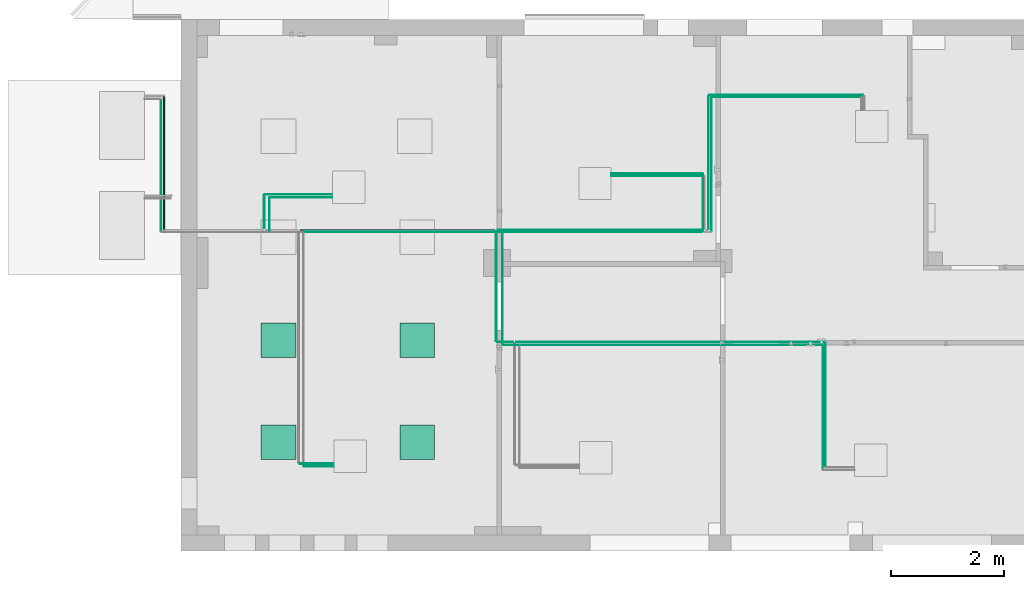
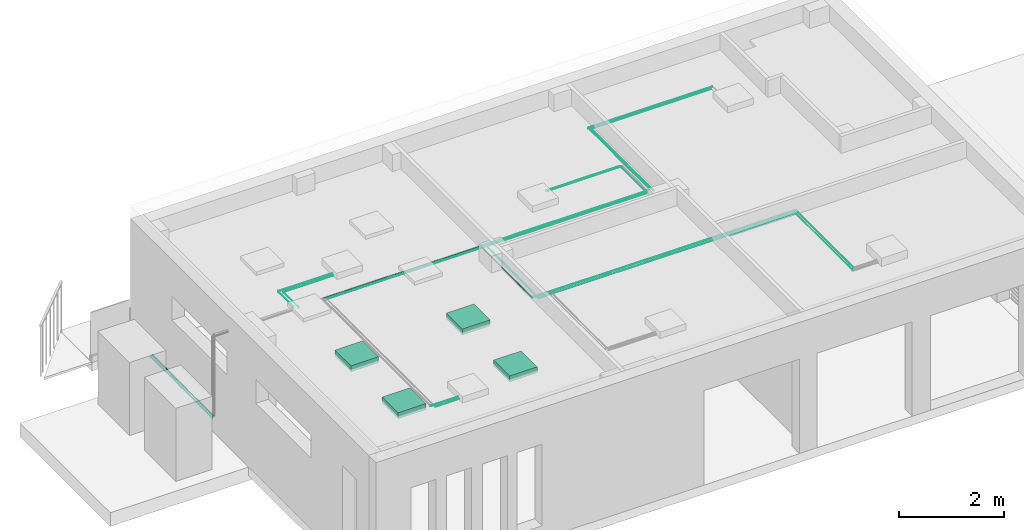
# One storey, part 8 of 22: 27 flow segments, 4 flow terminals.
"""IFC2X3 building model written with IfcOpenShell, lengths in millimetres."""

from ifc_helpers import new_model, entity, si_unit, converted_unit, derived_unit, direction, frame, frame_2d, origin, origin_2d_with_axis, place, context, subcontext, project, spatial, polyline, rectangle, circle, outline, extrude, source, transform, mapped, material, material_list, type_object, type_shapes, element, save


model = new_model("IFC2X3")

# Units and contexts
model_context = context("Model", 3, precision=0.01, world=origin(), true_north=direction((6.123031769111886e-17, 1.0)))
body_context = subcontext(model_context, "Body", "Model", "MODEL_VIEW")
ifc_project = project(units=[si_unit("LENGTHUNIT", "METRE", prefix="MILLI"), si_unit("AREAUNIT", "SQUARE_METRE"), si_unit("VOLUMEUNIT", "CUBIC_METRE"), converted_unit("PLANEANGLEUNIT", "DEGREE", entity("IfcRatioMeasure", 0.017453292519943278), si_unit("PLANEANGLEUNIT", "RADIAN"), dimensions=[0, 0, 0, 0, 0, 0, 0]), si_unit("MASSUNIT", "GRAM", prefix="KILO"), derived_unit("MASSDENSITYUNIT", [(si_unit("MASSUNIT", "GRAM", prefix="KILO"), 1), (si_unit("LENGTHUNIT", "METRE"), -3)]), derived_unit("MOMENTOFINERTIAUNIT", [(si_unit("LENGTHUNIT", "METRE"), 4)]), si_unit("TIMEUNIT", "SECOND"), si_unit("FREQUENCYUNIT", "HERTZ"), si_unit("THERMODYNAMICTEMPERATUREUNIT", "DEGREE_CELSIUS"), derived_unit("THERMALTRANSMITTANCEUNIT", [(si_unit("MASSUNIT", "GRAM", prefix="KILO"), 1), (si_unit("THERMODYNAMICTEMPERATUREUNIT", "KELVIN"), -1), (si_unit("TIMEUNIT", "SECOND"), -3)]), derived_unit("VOLUMETRICFLOWRATEUNIT", [(si_unit("LENGTHUNIT", "METRE"), 3), (si_unit("TIMEUNIT", "SECOND"), -1)]), derived_unit("MASSFLOWRATEUNIT", [(si_unit("MASSUNIT", "GRAM", prefix="KILO"), 1), (si_unit("TIMEUNIT", "SECOND"), -1)]), derived_unit("ROTATIONALFREQUENCYUNIT", [(si_unit("TIMEUNIT", "SECOND"), -1)]), si_unit("ELECTRICCURRENTUNIT", "AMPERE"), si_unit("ELECTRICVOLTAGEUNIT", "VOLT"), si_unit("POWERUNIT", "WATT"), si_unit("FORCEUNIT", "NEWTON", prefix="KILO"), si_unit("ILLUMINANCEUNIT", "LUX"), si_unit("LUMINOUSFLUXUNIT", "LUMEN"), si_unit("LUMINOUSINTENSITYUNIT", "CANDELA"), derived_unit("USERDEFINED", [(si_unit("MASSUNIT", "GRAM", prefix="KILO"), -1), (si_unit("LENGTHUNIT", "METRE"), -2), (si_unit("TIMEUNIT", "SECOND"), 3), (si_unit("LUMINOUSFLUXUNIT", "LUMEN"), 1)]), derived_unit("SOUNDPOWERUNIT", [(si_unit("MASSUNIT", "GRAM", prefix="KILO"), 1), (si_unit("LENGTHUNIT", "METRE"), 2), (si_unit("TIMEUNIT", "SECOND"), -3)]), derived_unit("SOUNDPRESSUREUNIT", [(si_unit("MASSUNIT", "GRAM", prefix="KILO"), 1), (si_unit("LENGTHUNIT", "METRE"), -1), (si_unit("TIMEUNIT", "SECOND"), -2)]), derived_unit("LINEARVELOCITYUNIT", [(si_unit("LENGTHUNIT", "METRE"), 1), (si_unit("TIMEUNIT", "SECOND"), -1)]), si_unit("PRESSUREUNIT", "PASCAL"), derived_unit("USERDEFINED", [(si_unit("LENGTHUNIT", "METRE"), -2), (si_unit("MASSUNIT", "GRAM", prefix="KILO"), 1), (si_unit("TIMEUNIT", "SECOND"), -2)]), derived_unit("LINEARFORCEUNIT", [(si_unit("MASSUNIT", "GRAM", prefix="KILO"), 1), (si_unit("LENGTHUNIT", "METRE"), 1), (si_unit("TIMEUNIT", "SECOND"), -2), (si_unit("LENGTHUNIT", "METRE"), -1)]), derived_unit("PLANARFORCEUNIT", [(si_unit("MASSUNIT", "GRAM", prefix="KILO"), 1), (si_unit("LENGTHUNIT", "METRE"), 1), (si_unit("TIMEUNIT", "SECOND"), -2), (si_unit("LENGTHUNIT", "METRE"), -2)])], contexts=[model_context])

# Site, building, storey
site_placement = place(None, origin())
site = spatial("IfcSite", under=ifc_project, at=site_placement, Name="Default", CompositionType="ELEMENT")
building_placement = place(site_placement, origin())
building = spatial("IfcBuilding", under=site, at=building_placement, CompositionType="ELEMENT")
storey_placement = place(building_placement, frame((0.0, 0.0, 3300.0)))
storey = spatial("IfcBuildingStorey", under=building, at=storey_placement, Name="Level 2", CompositionType="ELEMENT", Elevation=3299.99999999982)

# Flow segments
ifc_material_1 = material(Name="<Unnamed>")
pipe_segment_type_1 = type_object("IfcPipeSegmentType", Name="Pipe Types:Standard:Standard : Pipe Types:Standard", PredefinedType="NOTDEFINED", material=ifc_material_1)
shared_shape_1 = source(origin(), body_context, "Body", "SweptSolid", [
    extrude(circle(Radius=6.35, at=origin_2d_with_axis()), frame((1931.387580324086, -2592.85361987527, 6010.0), z_axis=(0.0, 1.0, 0.0), x_axis=(1.0, 0.0, 0.0)), (0.0, 0.0, 1.0), 2185.17500000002),
])
type_shapes(pipe_segment_type_1, [shared_shape_1])
flow_segment_1_placement = place(storey_placement, frame((0.0, 0.0, -3300.0)))
element("IfcFlowSegment", 1, at=flow_segment_1_placement, inside=storey, type_object=pipe_segment_type_1, material=ifc_material_1, Name="Pipe Types:Standard:Standard : Pipe Types:Standard:Standard:Standard : Pipe Types:Standard : Pipe Types:Standard:Standard : Pipe Types:Standard", ObjectType="Pipe Types:Standard:Standard : Pipe Types:Standard:Standard:Standard : Pipe Types:Standard : Pipe Types:Standard:Standard : Pipe Types:Standard", context=body_context, shape_type="MappedRepresentation", body=[
    mapped(shared_shape_1, transform((0.0, 0.0, 0.0), scale=1.0)),
])
pipe_segment_type_2 = type_object("IfcPipeSegmentType", Name="Pipe Types:Standard:Standard : Pipe Types:Standard", PredefinedType="NOTDEFINED", material=ifc_material_1)
shared_shape_2 = source(origin(), body_context, "Body", "SweptSolid", [
    extrude(circle(Radius=7.94, at=origin_2d_with_axis()), frame((-3848.94794470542, -393.3911198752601, 6010.0), z_axis=(1.0, 0.0, 0.0), x_axis=(0.0, 1.0, 0.0)), (0.0, 0.0, 1.0), 283.0624999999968),
])
type_shapes(pipe_segment_type_2, [shared_shape_2])
flow_segment_2_placement = place(storey_placement, frame((0.0, 0.0, -3300.0)))
element("IfcFlowSegment", 2, at=flow_segment_2_placement, inside=storey, type_object=pipe_segment_type_2, material=ifc_material_1, Name="Pipe Types:Standard:Standard : Pipe Types:Standard:Standard:Standard : Pipe Types:Standard : Pipe Types:Standard:Standard : Pipe Types:Standard", ObjectType="Pipe Types:Standard:Standard : Pipe Types:Standard:Standard:Standard : Pipe Types:Standard : Pipe Types:Standard:Standard : Pipe Types:Standard", context=body_context, shape_type="MappedRepresentation", body=[
    mapped(shared_shape_2, transform((0.0, 0.0, 0.0), scale=1.0)),
])
pipe_segment_type_3 = type_object("IfcPipeSegmentType", Name="Pipe Types:Standard:Standard : Pipe Types:Standard", PredefinedType="NOTDEFINED", material=ifc_material_1)
shared_shape_3 = source(origin(), body_context, "Body", "SweptSolid", [
    extrude(circle(Radius=3.175, at=origin_2d_with_axis()), frame((1889.1511671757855, -2645.74111987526, 5990.0), z_axis=(0.0, 1.0, 0.0), x_axis=(1.0, 0.0, 0.0)), (0.0, 0.0, 1.0), 2189.98917789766),
])
type_shapes(pipe_segment_type_3, [shared_shape_3])
flow_segment_3_placement = place(storey_placement, frame((0.0, 0.0, -3300.0)))
element("IfcFlowSegment", 3, at=flow_segment_3_placement, inside=storey, type_object=pipe_segment_type_3, material=ifc_material_1, Name="Pipe Types:Standard:Standard : Pipe Types:Standard:Standard:Standard : Pipe Types:Standard : Pipe Types:Standard:Standard : Pipe Types:Standard", ObjectType="Pipe Types:Standard:Standard : Pipe Types:Standard:Standard:Standard : Pipe Types:Standard : Pipe Types:Standard:Standard : Pipe Types:Standard", context=body_context, shape_type="MappedRepresentation", body=[
    mapped(shared_shape_3, transform((0.0, 0.0, 0.0), scale=1.0)),
])
pipe_segment_type_4 = type_object("IfcPipeSegmentType", Name="Pipe Types:Standard:Standard : Pipe Types:Standard", PredefinedType="NOTDEFINED", material=ifc_material_1)
shared_shape_4 = source(origin(), body_context, "Body", "SweptSolid", [
    extrude(circle(Radius=4.76, at=origin_2d_with_axis()), frame((-3743.12919470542, -446.22694197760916, 5990.0), z_axis=(1.0, 0.0, 0.0), x_axis=(0.0, 1.0, 0.0)), (0.0, 0.0, 1.0), 264.1249999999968),
])
type_shapes(pipe_segment_type_4, [shared_shape_4])
flow_segment_4_placement = place(storey_placement, frame((0.0, 0.0, -3300.0)))
element("IfcFlowSegment", 4, at=flow_segment_4_placement, inside=storey, type_object=pipe_segment_type_4, material=ifc_material_1, Name="Pipe Types:Standard:Standard : Pipe Types:Standard:Standard:Standard : Pipe Types:Standard : Pipe Types:Standard:Standard : Pipe Types:Standard", ObjectType="Pipe Types:Standard:Standard : Pipe Types:Standard:Standard:Standard : Pipe Types:Standard : Pipe Types:Standard:Standard : Pipe Types:Standard", context=body_context, shape_type="MappedRepresentation", body=[
    mapped(shared_shape_4, transform((0.0, 0.0, 0.0), scale=1.0)),
])
pipe_segment_type_5 = type_object("IfcPipeSegmentType", Name="Pipe Types:Standard:Standard : Pipe Types:Standard", PredefinedType="NOTDEFINED", material=ifc_material_1)
shared_shape_5 = source(origin(), body_context, "Body", "SweptSolid", [
    extrude(circle(Radius=6.35, at=origin_2d_with_axis()), frame((-3519.3166947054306, -393.39111987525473, 6010.0), z_axis=(1.0, 0.0, 0.0), x_axis=(0.0, 1.0, 0.0)), (0.0, 0.0, 1.0), 5436.41677502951),
])
type_shapes(pipe_segment_type_5, [shared_shape_5])
flow_segment_5_placement = place(storey_placement, frame((0.0, 0.0, -3300.0)))
element("IfcFlowSegment", 5, at=flow_segment_5_placement, inside=storey, type_object=pipe_segment_type_5, material=ifc_material_1, Name="Pipe Types:Standard:Standard : Pipe Types:Standard:Standard:Standard : Pipe Types:Standard : Pipe Types:Standard:Standard : Pipe Types:Standard", ObjectType="Pipe Types:Standard:Standard : Pipe Types:Standard:Standard:Standard : Pipe Types:Standard : Pipe Types:Standard:Standard : Pipe Types:Standard", context=body_context, shape_type="MappedRepresentation", body=[
    mapped(shared_shape_5, transform((0.0, 0.0, 0.0), scale=1.0)),
])
pipe_segment_type_6 = type_object("IfcPipeSegmentType", Name="Pipe Types:Standard:Standard : Pipe Types:Standard", PredefinedType="NOTDEFINED", material=ifc_material_1)
shared_shape_6 = source(origin(), body_context, "Body", "SweptSolid", [
    extrude(circle(Radius=3.175, at=origin_2d_with_axis()), frame((-3444.07919470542, -446.22694197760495, 5990.0), z_axis=(1.0, 0.0, 0.0), x_axis=(0.0, 1.0, 0.0)), (0.0, 0.0, 1.0), 5323.70536188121),
])
type_shapes(pipe_segment_type_6, [shared_shape_6])
flow_segment_6_placement = place(storey_placement, frame((0.0, 0.0, -3300.0)))
element("IfcFlowSegment", 6, at=flow_segment_6_placement, inside=storey, type_object=pipe_segment_type_6, material=ifc_material_1, Name="Pipe Types:Standard:Standard : Pipe Types:Standard:Standard:Standard : Pipe Types:Standard : Pipe Types:Standard:Standard : Pipe Types:Standard", ObjectType="Pipe Types:Standard:Standard : Pipe Types:Standard:Standard:Standard : Pipe Types:Standard : Pipe Types:Standard:Standard : Pipe Types:Standard", context=body_context, shape_type="MappedRepresentation", body=[
    mapped(shared_shape_6, transform((0.0, 0.0, 0.0), scale=1.0)),
])
pipe_segment_type_7 = type_object("IfcPipeSegmentType", Name="Pipe Types:Standard:Standard : Pipe Types:Standard", PredefinedType="NOTDEFINED", material=ifc_material_1)
shared_shape_7 = source(origin(), body_context, "Body", "SweptSolid", [
    extrude(circle(Radius=6.35, at=origin_2d_with_axis()), frame((-112.015651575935, 3955.345210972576, 6010.0), z_axis=(1.0, 0.0, 0.0), x_axis=(0.0, 1.0, 0.0)), (0.0, 0.0, 1.0), 2717.67500000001),
])
type_shapes(pipe_segment_type_7, [shared_shape_7])
flow_segment_7_placement = place(storey_placement, frame((0.0, 0.0, -3300.0)))
element("IfcFlowSegment", 7, at=flow_segment_7_placement, inside=storey, type_object=pipe_segment_type_7, material=ifc_material_1, Name="Pipe Types:Standard:Standard : Pipe Types:Standard:Standard:Standard : Pipe Types:Standard : Pipe Types:Standard:Standard : Pipe Types:Standard", ObjectType="Pipe Types:Standard:Standard : Pipe Types:Standard:Standard:Standard : Pipe Types:Standard : Pipe Types:Standard:Standard : Pipe Types:Standard", context=body_context, shape_type="MappedRepresentation", body=[
    mapped(shared_shape_7, transform((0.0, 0.0, 0.0), scale=1.0)),
])
pipe_segment_type_8 = type_object("IfcPipeSegmentType", Name="Pipe Types:Standard:Standard : Pipe Types:Standard", PredefinedType="NOTDEFINED", material=ifc_material_1)
shared_shape_8 = source(origin(), body_context, "Body", "SweptSolid", [
    extrude(circle(Radius=6.35, at=origin_2d_with_axis()), frame((-126.30315157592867, 1592.85068455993, 6010.0), z_axis=(0.0, 1.0, 0.0), x_axis=(-1.0, 0.0, 0.0)), (0.0, 0.0, 1.0), 2348.2070264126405),
])
type_shapes(pipe_segment_type_8, [shared_shape_8])
flow_segment_8_placement = place(storey_placement, frame((0.0, 0.0, -3300.0)))
element("IfcFlowSegment", 8, at=flow_segment_8_placement, inside=storey, type_object=pipe_segment_type_8, material=ifc_material_1, Name="Pipe Types:Standard:Standard : Pipe Types:Standard:Standard:Standard : Pipe Types:Standard : Pipe Types:Standard:Standard : Pipe Types:Standard", ObjectType="Pipe Types:Standard:Standard : Pipe Types:Standard:Standard:Standard : Pipe Types:Standard : Pipe Types:Standard:Standard : Pipe Types:Standard", context=body_context, shape_type="MappedRepresentation", body=[
    mapped(shared_shape_8, transform((0.0, 0.0, 0.0), scale=1.0)),
])
pipe_segment_type_9 = type_object("IfcPipeSegmentType", Name="Pipe Types:Standard:Standard : Pipe Types:Standard", PredefinedType="NOTDEFINED", material=ifc_material_1)
shared_shape_9 = source(origin(), body_context, "Body", "SweptSolid", [
    extrude(circle(Radius=3.175, at=origin_2d_with_axis()), frame((-60.5281515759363, 3922.565663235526, 5990.0), z_axis=(1.0, 0.0, 0.0), x_axis=(0.0, 1.0, 0.0)), (0.0, 0.0, 1.0), 2622.8250000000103),
])
type_shapes(pipe_segment_type_9, [shared_shape_9])
flow_segment_9_placement = place(storey_placement, frame((0.0, 0.0, -3300.0)))
element("IfcFlowSegment", 9, at=flow_segment_9_placement, inside=storey, type_object=pipe_segment_type_9, material=ifc_material_1, Name="Pipe Types:Standard:Standard : Pipe Types:Standard:Standard:Standard : Pipe Types:Standard : Pipe Types:Standard:Standard : Pipe Types:Standard", ObjectType="Pipe Types:Standard:Standard : Pipe Types:Standard:Standard:Standard : Pipe Types:Standard : Pipe Types:Standard:Standard : Pipe Types:Standard", context=body_context, shape_type="MappedRepresentation", body=[
    mapped(shared_shape_9, transform((0.0, 0.0, 0.0), scale=1.0)),
])
pipe_segment_type_10 = type_object("IfcPipeSegmentType", Name="Pipe Types:Standard:Standard : Pipe Types:Standard", PredefinedType="NOTDEFINED", material=ifc_material_1)
shared_shape_10 = source(origin(), body_context, "Body", "SweptSolid", [
    extrude(circle(Radius=3.175, at=origin_2d_with_axis()), frame((-70.05315157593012, 1554.99720897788, 5990.0), z_axis=(0.0, 1.0, 0.0), x_axis=(-1.0, 0.0, 0.0)), (0.0, 0.0, 1.0), 2358.04345425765),
])
type_shapes(pipe_segment_type_10, [shared_shape_10])
flow_segment_10_placement = place(storey_placement, frame((0.0, 0.0, -3300.0)))
element("IfcFlowSegment", 10, at=flow_segment_10_placement, inside=storey, type_object=pipe_segment_type_10, material=ifc_material_1, Name="Pipe Types:Standard:Standard : Pipe Types:Standard:Standard:Standard : Pipe Types:Standard : Pipe Types:Standard:Standard : Pipe Types:Standard", ObjectType="Pipe Types:Standard:Standard : Pipe Types:Standard:Standard:Standard : Pipe Types:Standard : Pipe Types:Standard:Standard : Pipe Types:Standard", context=body_context, shape_type="MappedRepresentation", body=[
    mapped(shared_shape_10, transform((0.0, 0.0, 0.0), scale=1.0)),
])
pipe_segment_type_11 = type_object("IfcPipeSegmentType", Name="Pipe Types:Standard:Standard : Pipe Types:Standard", PredefinedType="NOTDEFINED", material=ifc_material_1)
shared_shape_11 = source(origin(), body_context, "Body", "SweptSolid", [
    extrude(circle(Radius=3.175, at=origin_2d_with_axis()), frame((-1840.9623759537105, 2579.2868545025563, 5990.0), z_axis=(1.0, 0.0, 0.0), x_axis=(0.0, -1.0, 0.0)), (0.0, 0.0, 1.0), 1608.08125),
])
type_shapes(pipe_segment_type_11, [shared_shape_11])
flow_segment_11_placement = place(storey_placement, frame((0.0, 0.0, -3300.0)))
element("IfcFlowSegment", 11, at=flow_segment_11_placement, inside=storey, type_object=pipe_segment_type_11, material=ifc_material_1, Name="Pipe Types:Standard:Standard : Pipe Types:Standard:Standard:Standard : Pipe Types:Standard : Pipe Types:Standard:Standard : Pipe Types:Standard", ObjectType="Pipe Types:Standard:Standard : Pipe Types:Standard:Standard:Standard : Pipe Types:Standard : Pipe Types:Standard:Standard : Pipe Types:Standard", context=body_context, shape_type="MappedRepresentation", body=[
    mapped(shared_shape_11, transform((0.0, 0.0, 0.0), scale=1.0)),
])
pipe_segment_type_12 = type_object("IfcPipeSegmentType", Name="Pipe Types:Standard:Standard : Pipe Types:Standard", PredefinedType="NOTDEFINED", material=ifc_material_1)
shared_shape_12 = source(origin(), body_context, "Body", "SweptSolid", [
    extrude(circle(Radius=3.175, at=origin_2d_with_axis()), frame((-223.356125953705, 1561.34720897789, 5990.0), z_axis=(0.0, 1.0, 0.0), x_axis=(1.0, 0.0, 0.0)), (0.0, 0.0, 1.0), 1008.4146455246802),
])
type_shapes(pipe_segment_type_12, [shared_shape_12])
flow_segment_12_placement = place(storey_placement, frame((0.0, 0.0, -3300.0)))
element("IfcFlowSegment", 12, at=flow_segment_12_placement, inside=storey, type_object=pipe_segment_type_12, material=ifc_material_1, Name="Pipe Types:Standard:Standard : Pipe Types:Standard:Standard:Standard : Pipe Types:Standard : Pipe Types:Standard:Standard : Pipe Types:Standard", ObjectType="Pipe Types:Standard:Standard : Pipe Types:Standard:Standard:Standard : Pipe Types:Standard : Pipe Types:Standard:Standard : Pipe Types:Standard", context=body_context, shape_type="MappedRepresentation", body=[
    mapped(shared_shape_12, transform((0.0, 0.0, 0.0), scale=1.0)),
])
pipe_segment_type_13 = type_object("IfcPipeSegmentType", Name="Pipe Types:Standard:Standard : Pipe Types:Standard", PredefinedType="NOTDEFINED", material=ifc_material_1)
shared_shape_13 = source(origin(), body_context, "Body", "SweptSolid", [
    extrude(circle(Radius=7.94, at=origin_2d_with_axis()), frame((-3865.885444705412, -376.4536198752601, 6010.0), z_axis=(0.0, 1.0, 0.0), x_axis=(-1.0, 0.0, 0.0)), (0.0, 0.0, 1.0), 1931.72930443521),
])
type_shapes(pipe_segment_type_13, [shared_shape_13])
flow_segment_13_placement = place(storey_placement, frame((0.0, 0.0, -3300.0)))
element("IfcFlowSegment", 13, at=flow_segment_13_placement, inside=storey, type_object=pipe_segment_type_13, material=ifc_material_1, Name="Pipe Types:Standard:Standard : Pipe Types:Standard:Standard:Standard : Pipe Types:Standard : Pipe Types:Standard:Standard : Pipe Types:Standard", ObjectType="Pipe Types:Standard:Standard : Pipe Types:Standard:Standard:Standard : Pipe Types:Standard : Pipe Types:Standard:Standard : Pipe Types:Standard", context=body_context, shape_type="MappedRepresentation", body=[
    mapped(shared_shape_13, transform((0.0, 0.0, 0.0), scale=1.0)),
])
pipe_segment_type_14 = type_object("IfcPipeSegmentType", Name="Pipe Types:Standard:Standard : Pipe Types:Standard", PredefinedType="NOTDEFINED", material=ifc_material_1)
shared_shape_14 = source(origin(), body_context, "Body", "SweptSolid", [
    extrude(circle(Radius=6.35, at=origin_2d_with_axis()), frame((-3837.3041947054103, 1578.5631845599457, 6010.0), z_axis=(1.0, 0.0, 0.0), x_axis=(0.0, 1.0, 0.0)), (0.0, 0.0, 1.0), 3618.31056875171),
])
type_shapes(pipe_segment_type_14, [shared_shape_14])
flow_segment_14_placement = place(storey_placement, frame((0.0, 0.0, -3300.0)))
element("IfcFlowSegment", 14, at=flow_segment_14_placement, inside=storey, type_object=pipe_segment_type_14, material=ifc_material_1, Name="Pipe Types:Standard:Standard : Pipe Types:Standard:Standard:Standard : Pipe Types:Standard : Pipe Types:Standard:Standard : Pipe Types:Standard", ObjectType="Pipe Types:Standard:Standard : Pipe Types:Standard:Standard:Standard : Pipe Types:Standard : Pipe Types:Standard:Standard : Pipe Types:Standard", context=body_context, shape_type="MappedRepresentation", body=[
    mapped(shared_shape_14, transform((0.0, 0.0, 0.0), scale=1.0)),
])
pipe_segment_type_15 = type_object("IfcPipeSegmentType", Name="Pipe Types:Standard:Standard : Pipe Types:Standard", PredefinedType="NOTDEFINED", material=ifc_material_1)
shared_shape_15 = source(origin(), body_context, "Body", "SweptSolid", [
    extrude(circle(Radius=4.76, at=origin_2d_with_axis()), frame((-3755.829194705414, -433.526941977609, 5990.0), z_axis=(0.0, 1.0, 0.0), x_axis=(1.0, 0.0, 0.0)), (0.0, 0.0, 1.0), 1959.9491509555),
])
type_shapes(pipe_segment_type_15, [shared_shape_15])
flow_segment_15_placement = place(storey_placement, frame((0.0, 0.0, -3300.0)))
element("IfcFlowSegment", 15, at=flow_segment_15_placement, inside=storey, type_object=pipe_segment_type_15, material=ifc_material_1, Name="Pipe Types:Standard:Standard : Pipe Types:Standard:Standard:Standard : Pipe Types:Standard : Pipe Types:Standard:Standard : Pipe Types:Standard", ObjectType="Pipe Types:Standard:Standard : Pipe Types:Standard:Standard:Standard : Pipe Types:Standard : Pipe Types:Standard:Standard : Pipe Types:Standard", context=body_context, shape_type="MappedRepresentation", body=[
    mapped(shared_shape_15, transform((0.0, 0.0, 0.0), scale=1.0)),
])
pipe_segment_type_16 = type_object("IfcPipeSegmentType", Name="Pipe Types:Standard:Standard : Pipe Types:Standard", PredefinedType="NOTDEFINED", material=ifc_material_1)
shared_shape_16 = source(origin(), body_context, "Body", "SweptSolid", [
    extrude(circle(Radius=6.35, at=origin_2d_with_axis()), frame((-1839.3873759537, 2531.1618545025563, 6010.0), z_axis=(1.0, 0.0, 0.0), x_axis=(0.0, -1.0, 0.0)), (0.0, 0.0, 1.0), 1626.7437500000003),
])
type_shapes(pipe_segment_type_16, [shared_shape_16])
flow_segment_16_placement = place(storey_placement, frame((0.0, 0.0, -3300.0)))
element("IfcFlowSegment", 16, at=flow_segment_16_placement, inside=storey, type_object=pipe_segment_type_16, material=ifc_material_1, Name="Pipe Types:Standard:Standard : Pipe Types:Standard:Standard:Standard : Pipe Types:Standard : Pipe Types:Standard:Standard : Pipe Types:Standard", ObjectType="Pipe Types:Standard:Standard : Pipe Types:Standard:Standard:Standard : Pipe Types:Standard : Pipe Types:Standard:Standard : Pipe Types:Standard", context=body_context, shape_type="MappedRepresentation", body=[
    mapped(shared_shape_16, transform((0.0, 0.0, 0.0), scale=1.0)),
])
pipe_segment_type_17 = type_object("IfcPipeSegmentType", Name="Pipe Types:Standard:Standard : Pipe Types:Standard", PredefinedType="NOTDEFINED", material=ifc_material_1)
shared_shape_17 = source(origin(), body_context, "Body", "SweptSolid", [
    extrude(circle(Radius=6.35, at=origin_2d_with_axis()), frame((-7945.263100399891, 2204.1521982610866, 6010.0), z_axis=(1.0, 0.0, 0.0), x_axis=(0.0, 1.0, 0.0)), (0.0, 0.0, 1.0), 1185.7125000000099),
])
type_shapes(pipe_segment_type_17, [shared_shape_17])
flow_segment_17_placement = place(storey_placement, frame((0.0, 0.0, -3300.0)))
element("IfcFlowSegment", 17, at=flow_segment_17_placement, inside=storey, type_object=pipe_segment_type_17, material=ifc_material_1, Name="Pipe Types:Standard:Standard : Pipe Types:Standard:Standard:Standard : Pipe Types:Standard : Pipe Types:Standard:Standard : Pipe Types:Standard", ObjectType="Pipe Types:Standard:Standard : Pipe Types:Standard:Standard:Standard : Pipe Types:Standard : Pipe Types:Standard:Standard : Pipe Types:Standard", context=body_context, shape_type="MappedRepresentation", body=[
    mapped(shared_shape_17, transform((0.0, 0.0, 0.0), scale=1.0)),
])
pipe_segment_type_18 = type_object("IfcPipeSegmentType", Name="Pipe Types:Standard:Standard : Pipe Types:Standard", PredefinedType="NOTDEFINED", material=ifc_material_1)
shared_shape_18 = source(origin(), body_context, "Body", "SweptSolid", [
    extrude(circle(Radius=3.175, at=origin_2d_with_axis()), frame((-7858.93372458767, 2156.0271982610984, 5990.0), z_axis=(1.0, 0.0, 0.0), x_axis=(0.0, 1.0, 0.0)), (0.0, 0.0, 1.0), 1100.9581241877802),
])
type_shapes(pipe_segment_type_18, [shared_shape_18])
flow_segment_18_placement = place(storey_placement, frame((0.0, 0.0, -3300.0)))
element("IfcFlowSegment", 18, at=flow_segment_18_placement, inside=storey, type_object=pipe_segment_type_18, material=ifc_material_1, Name="Pipe Types:Standard:Standard : Pipe Types:Standard:Standard:Standard : Pipe Types:Standard : Pipe Types:Standard:Standard : Pipe Types:Standard", ObjectType="Pipe Types:Standard:Standard : Pipe Types:Standard:Standard:Standard : Pipe Types:Standard : Pipe Types:Standard:Standard : Pipe Types:Standard", context=body_context, shape_type="MappedRepresentation", body=[
    mapped(shared_shape_18, transform((0.0, 0.0, 0.0), scale=1.0)),
])
pipe_segment_type_19 = type_object("IfcPipeSegmentType", Name="Pipe Types:Standard:Standard : Pipe Types:Standard", PredefinedType="NOTDEFINED", material=ifc_material_1)
shared_shape_19 = source(origin(), body_context, "Body", "SweptSolid", [
    extrude(circle(Radius=3.175, at=origin_2d_with_axis()), frame((-7868.458724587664, 1567.69720897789, 5990.0), z_axis=(0.0, 1.0, 0.0), x_axis=(-1.0, 0.0, 0.0)), (0.0, 0.0, 1.0), 578.8049892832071),
])
type_shapes(pipe_segment_type_19, [shared_shape_19])
flow_segment_19_placement = place(storey_placement, frame((0.0, 0.0, -3300.0)))
element("IfcFlowSegment", 19, at=flow_segment_19_placement, inside=storey, type_object=pipe_segment_type_19, material=ifc_material_1, Name="Pipe Types:Standard:Standard : Pipe Types:Standard:Standard:Standard : Pipe Types:Standard : Pipe Types:Standard:Standard : Pipe Types:Standard", ObjectType="Pipe Types:Standard:Standard : Pipe Types:Standard:Standard:Standard : Pipe Types:Standard : Pipe Types:Standard:Standard : Pipe Types:Standard", context=body_context, shape_type="MappedRepresentation", body=[
    mapped(shared_shape_19, transform((0.0, 0.0, 0.0), scale=1.0)),
])
pipe_segment_type_20 = type_object("IfcPipeSegmentType", Name="Pipe Types:Standard:Standard : Pipe Types:Standard", PredefinedType="NOTDEFINED", material=ifc_material_1)
shared_shape_20 = source(origin(), body_context, "Body", "SweptSolid", [
    extrude(circle(Radius=6.35, at=origin_2d_with_axis()), frame((-7959.550600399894, 1609.2558710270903, 6010.0), z_axis=(0.0, 1.0, 0.0), x_axis=(-1.0, 0.0, 0.0)), (0.0, 0.0, 1.0), 580.608827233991),
])
type_shapes(pipe_segment_type_20, [shared_shape_20])
flow_segment_20_placement = place(storey_placement, frame((0.0, 0.0, -3300.0)))
element("IfcFlowSegment", 20, at=flow_segment_20_placement, inside=storey, type_object=pipe_segment_type_20, material=ifc_material_1, Name="Pipe Types:Standard:Standard : Pipe Types:Standard:Standard:Standard : Pipe Types:Standard : Pipe Types:Standard:Standard : Pipe Types:Standard", ObjectType="Pipe Types:Standard:Standard : Pipe Types:Standard:Standard:Standard : Pipe Types:Standard : Pipe Types:Standard:Standard : Pipe Types:Standard", context=body_context, shape_type="MappedRepresentation", body=[
    mapped(shared_shape_20, transform((0.0, 0.0, 0.0), scale=1.0)),
])
pipe_segment_type_21 = type_object("IfcPipeSegmentType", Name="Pipe Types:Standard:Standard : Pipe Types:Standard", PredefinedType="NOTDEFINED", material=ifc_material_1)
shared_shape_21 = source(origin(), body_context, "Body", "SweptSolid", [
    extrude(circle(Radius=6.35, at=origin_2d_with_axis()), frame((-7334.4904879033, -2540.1314636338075, 6010.0), z_axis=(1.0, 0.0, 0.0), x_axis=(0.0, 1.0, 0.0)), (0.0, 0.0, 1.0), 601.7437499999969),
])
type_shapes(pipe_segment_type_21, [shared_shape_21])
flow_segment_21_placement = place(storey_placement, frame((0.0, 0.0, -3300.0)))
element("IfcFlowSegment", 21, at=flow_segment_21_placement, inside=storey, type_object=pipe_segment_type_21, material=ifc_material_1, Name="Pipe Types:Standard:Standard : Pipe Types:Standard:Standard:Standard : Pipe Types:Standard : Pipe Types:Standard:Standard : Pipe Types:Standard", ObjectType="Pipe Types:Standard:Standard : Pipe Types:Standard:Standard:Standard : Pipe Types:Standard : Pipe Types:Standard:Standard : Pipe Types:Standard", context=body_context, shape_type="MappedRepresentation", body=[
    mapped(shared_shape_21, transform((0.0, 0.0, 0.0), scale=1.0)),
])
pipe_segment_type_22 = type_object("IfcPipeSegmentType", Name="Pipe Types:Standard:Standard : Pipe Types:Standard", PredefinedType="NOTDEFINED", material=ifc_material_1)
shared_shape_22 = source(origin(), body_context, "Body", "SweptSolid", [
    extrude(circle(Radius=3.175, at=origin_2d_with_axis()), frame((-7259.2529879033, -2588.256463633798, 5990.0), z_axis=(1.0, 0.0, 0.0), x_axis=(0.0, 1.0, 0.0)), (0.0, 0.0, 1.0), 528.0812499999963),
])
type_shapes(pipe_segment_type_22, [shared_shape_22])
flow_segment_22_placement = place(storey_placement, frame((0.0, 0.0, -3300.0)))
element("IfcFlowSegment", 22, at=flow_segment_22_placement, inside=storey, type_object=pipe_segment_type_22, material=ifc_material_1, Name="Pipe Types:Standard:Standard : Pipe Types:Standard:Standard:Standard : Pipe Types:Standard : Pipe Types:Standard:Standard : Pipe Types:Standard", ObjectType="Pipe Types:Standard:Standard : Pipe Types:Standard:Standard:Standard : Pipe Types:Standard : Pipe Types:Standard:Standard : Pipe Types:Standard", context=body_context, shape_type="MappedRepresentation", body=[
    mapped(shared_shape_22, transform((0.0, 0.0, 0.0), scale=1.0)),
])
pipe_segment_type_23 = type_object("IfcPipeSegmentType", Name="Pipe Types:Standard:Standard : Pipe Types:Standard", PredefinedType="NOTDEFINED", material=ifc_material_1)
shared_shape_23 = source(origin(), body_context, "Body", "SweptSolid", [
    extrude(circle(Radius=9.525, at=origin_2d_with_axis()), frame((-7324.9654879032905, 1578.563184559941, 6010.0), z_axis=(1.0, 0.0, 0.0), x_axis=(0.0, 1.0, 0.0)), (0.0, 0.0, 1.0), 3430.23629319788),
])
type_shapes(pipe_segment_type_23, [shared_shape_23])
flow_segment_23_placement = place(storey_placement, frame((0.0, 0.0, -3300.0)))
element("IfcFlowSegment", 23, at=flow_segment_23_placement, inside=storey, type_object=pipe_segment_type_23, material=ifc_material_1, Name="Pipe Types:Standard:Standard : Pipe Types:Standard:Standard:Standard : Pipe Types:Standard : Pipe Types:Standard:Standard : Pipe Types:Standard", ObjectType="Pipe Types:Standard:Standard : Pipe Types:Standard:Standard:Standard : Pipe Types:Standard : Pipe Types:Standard:Standard : Pipe Types:Standard", context=body_context, shape_type="MappedRepresentation", body=[
    mapped(shared_shape_23, transform((0.0, 0.0, 0.0), scale=1.0)),
])
pipe_segment_type_24 = type_object("IfcPipeSegmentType", Name="Pipe Types:Standard:Standard : Pipe Types:Standard", PredefinedType="NOTDEFINED", material=ifc_material_1)
shared_shape_24 = source(origin(), body_context, "Body", "SweptSolid", [
    extrude(circle(Radius=4.76, at=origin_2d_with_axis()), frame((-3736.77919470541, 1545.4722089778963, 5990.0), z_axis=(1.0, 0.0, 0.0), x_axis=(0.0, 1.0, 0.0)), (0.0, 0.0, 1.0), 3494.3730687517),
])
type_shapes(pipe_segment_type_24, [shared_shape_24])
flow_segment_24_placement = place(storey_placement, frame((0.0, 0.0, -3300.0)))
element("IfcFlowSegment", 24, at=flow_segment_24_placement, inside=storey, type_object=pipe_segment_type_24, material=ifc_material_1, Name="Pipe Types:Standard:Standard : Pipe Types:Standard:Standard:Standard : Pipe Types:Standard : Pipe Types:Standard:Standard : Pipe Types:Standard", ObjectType="Pipe Types:Standard:Standard : Pipe Types:Standard:Standard:Standard : Pipe Types:Standard : Pipe Types:Standard:Standard : Pipe Types:Standard", context=body_context, shape_type="MappedRepresentation", body=[
    mapped(shared_shape_24, transform((0.0, 0.0, 0.0), scale=1.0)),
])
pipe_segment_type_25 = type_object("IfcPipeSegmentType", Name="Pipe Types:Standard:Standard : Pipe Types:Standard", PredefinedType="NOTDEFINED", material=ifc_material_1)
shared_shape_25 = source(origin(), body_context, "Body", "SweptSolid", [
    extrude(circle(Radius=4.76, at=origin_2d_with_axis()), frame((-7249.72798790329, 1545.4722089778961, 5990.0), z_axis=(1.0, 0.0, 0.0), x_axis=(0.0, 1.0, 0.0)), (0.0, 0.0, 1.0), 3474.84879319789),
])
type_shapes(pipe_segment_type_25, [shared_shape_25])
flow_segment_25_placement = place(storey_placement, frame((0.0, 0.0, -3300.0)))
element("IfcFlowSegment", 25, at=flow_segment_25_placement, inside=storey, type_object=pipe_segment_type_25, material=ifc_material_1, Name="Pipe Types:Standard:Standard : Pipe Types:Standard:Standard:Standard : Pipe Types:Standard : Pipe Types:Standard:Standard : Pipe Types:Standard", ObjectType="Pipe Types:Standard:Standard : Pipe Types:Standard:Standard:Standard : Pipe Types:Standard : Pipe Types:Standard:Standard : Pipe Types:Standard", context=body_context, shape_type="MappedRepresentation", body=[
    mapped(shared_shape_25, transform((0.0, 0.0, 0.0), scale=1.0)),
])
pipe_segment_type_26 = type_object("IfcPipeSegmentType", Name="Pipe Types:Standard:Standard : Pipe Types:Standard", PredefinedType="NOTDEFINED", material=ifc_material_1)
shared_shape_26 = source(origin(), body_context, "Body", "SweptSolid", [
    extrude(circle(Radius=9.525, at=origin_2d_with_axis()), frame((-9726.603454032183, 1596.01281931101, 4107.241636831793), z_axis=(0.0, 1.0, 0.0), x_axis=(1.0, 0.0, 0.0)), (0.0, 0.0, 1.0), 2335.68747001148),
])
type_shapes(pipe_segment_type_26, [shared_shape_26])
flow_segment_26_placement = place(storey_placement, frame((0.0, 0.0, -3300.0)))
element("IfcFlowSegment", 26, at=flow_segment_26_placement, inside=storey, type_object=pipe_segment_type_26, material=ifc_material_1, Name="Pipe Types:Standard:Standard : Pipe Types:Standard:Standard:Standard : Pipe Types:Standard : Pipe Types:Standard:Standard : Pipe Types:Standard", ObjectType="Pipe Types:Standard:Standard : Pipe Types:Standard:Standard:Standard : Pipe Types:Standard : Pipe Types:Standard:Standard : Pipe Types:Standard", context=body_context, shape_type="MappedRepresentation", body=[
    mapped(shared_shape_26, transform((0.0, 0.0, 0.0), scale=1.0)),
])
pipe_segment_type_27 = type_object("IfcPipeSegmentType", Name="Pipe Types:Standard:Standard : Pipe Types:Standard", PredefinedType="NOTDEFINED", material=ifc_material_1)
shared_shape_27 = source(origin(), body_context, "Body", "SweptSolid", [
    extrude(circle(Radius=4.76, at=origin_2d_with_axis()), frame((-9781.602112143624, 1558.162705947, 4107.241636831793), z_axis=(0.0, 1.0, 0.0), x_axis=(1.0, 0.0, 0.0)), (0.0, 0.0, 1.0), 2323.3000833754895),
])
type_shapes(pipe_segment_type_27, [shared_shape_27])
flow_segment_27_placement = place(storey_placement, frame((0.0, 0.0, -3300.0)))
element("IfcFlowSegment", 27, at=flow_segment_27_placement, inside=storey, type_object=pipe_segment_type_27, material=ifc_material_1, Name="Pipe Types:Standard:Standard : Pipe Types:Standard:Standard:Standard : Pipe Types:Standard : Pipe Types:Standard:Standard : Pipe Types:Standard", ObjectType="Pipe Types:Standard:Standard : Pipe Types:Standard:Standard:Standard : Pipe Types:Standard : Pipe Types:Standard:Standard : Pipe Types:Standard", context=body_context, shape_type="MappedRepresentation", body=[
    mapped(shared_shape_27, transform((0.0, 0.0, 0.0), scale=1.0)),
])

# Flow terminals
ifc_material_2 = material(Name="Glass, White, High Luminance")
ifc_material_3 = material(Name="Steel, Chrome Plated 155972")
ifc_material_list_1 = material_list([ifc_material_2, ifc_material_3, ifc_material_2, ifc_material_3])
ifc_material_list_2 = material_list([ifc_material_2, ifc_material_3, ifc_material_2, ifc_material_3])
light_fixture_type_1 = type_object("IfcLightFixtureType", Name="M_Troffer Light - Parabolic Square control rooms:0600x0600mm(2 Lamp) - 120V:0600x0600mm(2 Lamp) - 120V : M_Troffer Light - Parabolic Square control rooms:0600x0600mm(2 Lamp) - 120V", PredefinedType="NOTDEFINED", material=ifc_material_list_2)
shared_shape_28 = source(origin(), body_context, "Body", "SweptSolid", [
    extrude(rectangle(XDim=558.8, YDim=558.7999999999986, at=origin_2d_with_axis()), frame((-7707.35577874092, -364.6470375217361, 5976.19999999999), z_axis=(0.0, 0.0, 1.0), x_axis=(0.0, 1.0, 0.0)), (0.0, 0.0, 1.0), 6.350000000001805),
    extrude(outline(polyline([(-304.80000000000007, -304.8), (304.80000000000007, -304.8), (304.80000000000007, 304.8), (-304.80000000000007, 304.8), (-304.80000000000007, -304.8)]), holes=[polyline([(279.400000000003, 279.3999999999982), (279.400000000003, -279.40000000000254), (-279.3999999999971, -279.40000000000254), (-279.3999999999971, 279.3999999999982), (279.400000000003, 279.3999999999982)])]), frame((-7707.35577874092, -364.647037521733, 5900.0), z_axis=(0.0, 0.0, 1.0), x_axis=(0.0, -1.0, 0.0)), (0.0, 0.0, 1.0), 114.2999999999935),
    extrude(rectangle(XDim=558.800000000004, YDim=558.7999999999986, at=origin_2d_with_axis()), frame((-7707.35577874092, -364.64703752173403, 5890.0), z_axis=(0.0, 0.0, 1.0), x_axis=(0.0, 1.0, 0.0)), (0.0, 0.0, 1.0), 60.00000000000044),
    extrude(rectangle(XDim=609.6000000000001, YDim=609.6000000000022, at=origin_2d_with_axis()), frame((-7707.35577874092, -364.647037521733, 6014.299999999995), z_axis=(0.0, 0.0, 1.0), x_axis=(0.0, 1.0, 0.0)), (0.0, 0.0, 1.0), 25.399999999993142),
])
type_shapes(light_fixture_type_1, [shared_shape_28])
flow_terminal_1_placement = place(storey_placement, frame((0.0, 0.0, -3300.0)))
element("IfcFlowTerminal", 28, at=flow_terminal_1_placement, inside=storey, type_object=light_fixture_type_1, material=ifc_material_list_1, context=body_context, shape_type="MappedRepresentation", body=[
    mapped(shared_shape_28, transform((0.0, 0.0, 0.0), scale=1.0)),
])
ifc_material_list_3 = material_list([ifc_material_2, ifc_material_3, ifc_material_2, ifc_material_3])
ifc_material_list_4 = material_list([ifc_material_2, ifc_material_3, ifc_material_2, ifc_material_3])
light_fixture_type_2 = type_object("IfcLightFixtureType", Name="M_Troffer Light - Parabolic Square control rooms:0600x0600mm(2 Lamp) - 120V:0600x0600mm(2 Lamp) - 120V : M_Troffer Light - Parabolic Square control rooms:0600x0600mm(2 Lamp) - 120V", PredefinedType="NOTDEFINED", material=ifc_material_list_4)
shared_shape_29 = source(origin(), body_context, "Body", "SweptSolid", [
    extrude(rectangle(XDim=558.8, YDim=558.7999999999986, at=origin_2d_with_axis()), frame((-5257.355778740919, -364.6470375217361, 5976.19999999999), z_axis=(0.0, 0.0, 1.0), x_axis=(0.0, 1.0, 0.0)), (0.0, 0.0, 1.0), 6.350000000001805),
    extrude(outline(polyline([(-304.80000000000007, -304.8), (304.80000000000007, -304.8), (304.80000000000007, 304.8), (-304.80000000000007, 304.8), (-304.80000000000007, -304.8)]), holes=[polyline([(279.400000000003, 279.3999999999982), (279.400000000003, -279.40000000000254), (-279.3999999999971, -279.40000000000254), (-279.3999999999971, 279.3999999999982), (279.400000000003, 279.3999999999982)])]), frame((-5257.35577874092, -364.647037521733, 5900.0), z_axis=(0.0, 0.0, 1.0), x_axis=(0.0, -1.0, 0.0)), (0.0, 0.0, 1.0), 114.2999999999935),
    extrude(rectangle(XDim=558.800000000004, YDim=558.7999999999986, at=origin_2d_with_axis()), frame((-5257.355778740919, -364.64703752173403, 5890.0), z_axis=(0.0, 0.0, 1.0), x_axis=(0.0, 1.0, 0.0)), (0.0, 0.0, 1.0), 60.00000000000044),
    extrude(rectangle(XDim=609.6000000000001, YDim=609.6000000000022, at=origin_2d_with_axis()), frame((-5257.35577874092, -364.647037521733, 6014.299999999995), z_axis=(0.0, 0.0, 1.0), x_axis=(0.0, 1.0, 0.0)), (0.0, 0.0, 1.0), 25.399999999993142),
])
type_shapes(light_fixture_type_2, [shared_shape_29])
flow_terminal_2_placement = place(storey_placement, frame((0.0, 0.0, -3300.0)))
element("IfcFlowTerminal", 29, at=flow_terminal_2_placement, inside=storey, type_object=light_fixture_type_2, material=ifc_material_list_3, context=body_context, shape_type="MappedRepresentation", body=[
    mapped(shared_shape_29, transform((0.0, 0.0, 0.0), scale=1.0)),
])
ifc_material_list_5 = material_list([ifc_material_2, ifc_material_3, ifc_material_2, ifc_material_3])
ifc_material_list_6 = material_list([ifc_material_2, ifc_material_3, ifc_material_2, ifc_material_3])
light_fixture_type_3 = type_object("IfcLightFixtureType", Name="M_Troffer Light - Parabolic Square control rooms:0600x0600mm(2 Lamp) - 120V:0600x0600mm(2 Lamp) - 120V : M_Troffer Light - Parabolic Square control rooms:0600x0600mm(2 Lamp) - 120V", PredefinedType="NOTDEFINED", material=ifc_material_list_6)
shared_shape_30 = source(origin(), body_context, "Body", "SweptSolid", [
    extrude(rectangle(XDim=558.8000000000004, YDim=558.7999999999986, at=frame_2d((-1.4210854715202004e-13, 0.0), x_axis=(1.0, 0.0))), frame((-5257.355778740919, -2164.647045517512, 5976.19999999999), z_axis=(0.0, 0.0, 1.0), x_axis=(0.0, 1.0, 0.0)), (0.0, 0.0, 1.0), 6.350000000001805),
    extrude(outline(polyline([(-304.8000000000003, -304.8), (304.8, -304.8), (304.8, 304.8), (-304.8000000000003, 304.8), (-304.8000000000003, -304.8)]), holes=[polyline([(279.4000000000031, 279.3999999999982), (279.4000000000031, -279.40000000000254), (-279.3999999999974, -279.40000000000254), (-279.3999999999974, 279.3999999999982), (279.4000000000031, 279.3999999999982)])]), frame((-5257.35577874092, -2164.6470455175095, 5900.0), z_axis=(0.0, 0.0, 1.0), x_axis=(0.0, -1.0, 0.0)), (0.0, 0.0, 1.0), 114.2999999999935),
    extrude(rectangle(XDim=558.8000000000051, YDim=558.7999999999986, at=origin_2d_with_axis()), frame((-5257.355778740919, -2164.6470455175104, 5890.0), z_axis=(0.0, 0.0, 1.0), x_axis=(0.0, 1.0, 0.0)), (0.0, 0.0, 1.0), 60.00000000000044),
    extrude(rectangle(XDim=609.6, YDim=609.6000000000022, at=origin_2d_with_axis()), frame((-5257.35577874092, -2164.6470455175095, 6014.299999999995), z_axis=(0.0, 0.0, 1.0), x_axis=(0.0, 1.0, 0.0)), (0.0, 0.0, 1.0), 25.399999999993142),
])
type_shapes(light_fixture_type_3, [shared_shape_30])
flow_terminal_3_placement = place(storey_placement, frame((0.0, 0.0, -3300.0)))
element("IfcFlowTerminal", 30, at=flow_terminal_3_placement, inside=storey, type_object=light_fixture_type_3, material=ifc_material_list_5, context=body_context, shape_type="MappedRepresentation", body=[
    mapped(shared_shape_30, transform((0.0, 0.0, 0.0), scale=1.0)),
])
ifc_material_list_7 = material_list([ifc_material_2, ifc_material_3, ifc_material_2, ifc_material_3])
ifc_material_list_8 = material_list([ifc_material_2, ifc_material_3, ifc_material_2, ifc_material_3])
light_fixture_type_4 = type_object("IfcLightFixtureType", Name="M_Troffer Light - Parabolic Square control rooms:0600x0600mm(2 Lamp) - 120V:0600x0600mm(2 Lamp) - 120V : M_Troffer Light - Parabolic Square control rooms:0600x0600mm(2 Lamp) - 120V", PredefinedType="NOTDEFINED", material=ifc_material_list_8)
shared_shape_31 = source(origin(), body_context, "Body", "SweptSolid", [
    extrude(rectangle(XDim=558.8000000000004, YDim=558.7999999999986, at=frame_2d((-1.4210854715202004e-13, 0.0), x_axis=(1.0, 0.0))), frame((-7707.35577874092, -2164.647045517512, 5976.19999999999), z_axis=(0.0, 0.0, 1.0), x_axis=(0.0, 1.0, 0.0)), (0.0, 0.0, 1.0), 6.350000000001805),
    extrude(outline(polyline([(-304.8000000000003, -304.8), (304.8, -304.8), (304.8, 304.8), (-304.8000000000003, 304.8), (-304.8000000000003, -304.8)]), holes=[polyline([(279.4000000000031, 279.3999999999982), (279.4000000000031, -279.40000000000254), (-279.3999999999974, -279.40000000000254), (-279.3999999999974, 279.3999999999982), (279.4000000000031, 279.3999999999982)])]), frame((-7707.35577874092, -2164.6470455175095, 5900.0), z_axis=(0.0, 0.0, 1.0), x_axis=(0.0, -1.0, 0.0)), (0.0, 0.0, 1.0), 114.2999999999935),
    extrude(rectangle(XDim=558.8000000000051, YDim=558.7999999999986, at=origin_2d_with_axis()), frame((-7707.35577874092, -2164.6470455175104, 5890.0), z_axis=(0.0, 0.0, 1.0), x_axis=(0.0, 1.0, 0.0)), (0.0, 0.0, 1.0), 60.00000000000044),
    extrude(rectangle(XDim=609.6, YDim=609.6000000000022, at=origin_2d_with_axis()), frame((-7707.35577874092, -2164.6470455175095, 6014.299999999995), z_axis=(0.0, 0.0, 1.0), x_axis=(0.0, 1.0, 0.0)), (0.0, 0.0, 1.0), 25.399999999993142),
])
type_shapes(light_fixture_type_4, [shared_shape_31])
flow_terminal_4_placement = place(storey_placement, frame((0.0, 0.0, -3300.0)))
element("IfcFlowTerminal", 31, at=flow_terminal_4_placement, inside=storey, type_object=light_fixture_type_4, material=ifc_material_list_7, context=body_context, shape_type="MappedRepresentation", body=[
    mapped(shared_shape_31, transform((0.0, 0.0, 0.0), scale=1.0)),
])

save(model, "model.ifc")
